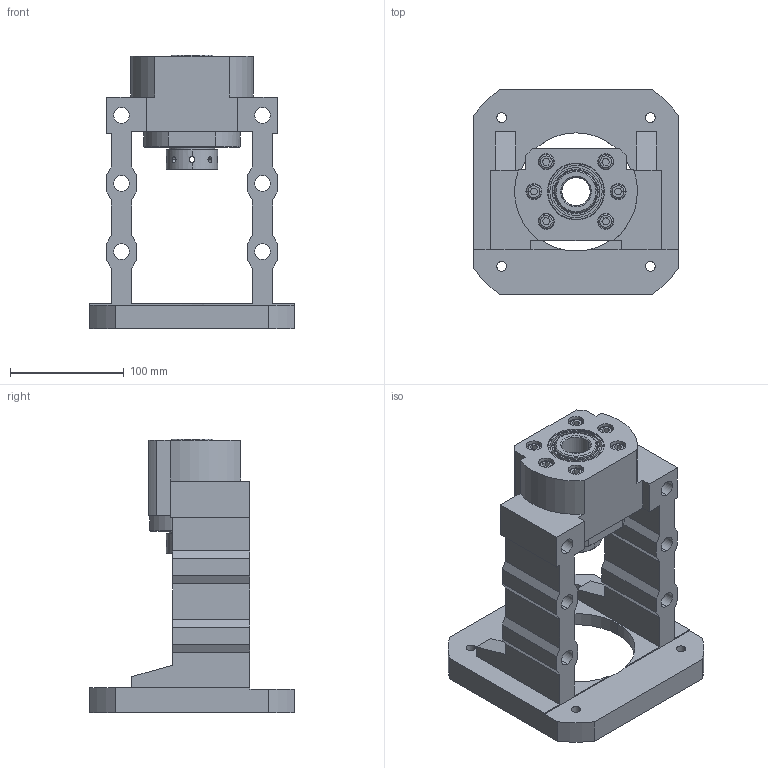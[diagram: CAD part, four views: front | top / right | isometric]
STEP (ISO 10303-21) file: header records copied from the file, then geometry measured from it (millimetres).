
FILE_DESCRIPTION (( 'STEP AP203' ), '1' );
FILE_NAME ('MBCK25-J²Õ¦X¥ó.STEP', '2024-09-05T08:28:01', ( '' ), ( '' ), 'SwSTEP 2.0', 'SolidWorks 2018', '' );
FILE_SCHEMA (( 'CONFIG_CONTROL_DESIGN' ));
Length unit declared in the file: millimetre
Products named in the file (1): MBCK25-J組合件
Bounding box: 180 x 180 x 241 mm (x, y, z)
Surface area: 217818.4 mm2 (no closed solid volume)
Topology: 0 solids, 21 shells, 334 faces, 932 edges, 615 vertices
Faces by surface type: plane 133, cylinder 114, cone 60, torus 26, bspline 1
Entity records: 13451 total; most frequent: CARTESIAN_POINT 4792, DIRECTION 1822, ORIENTED_EDGE 1656, EDGE_CURVE 924, AXIS2_PLACEMENT_3D 683, VERTEX_POINT 615, LINE 456, VECTOR 456
